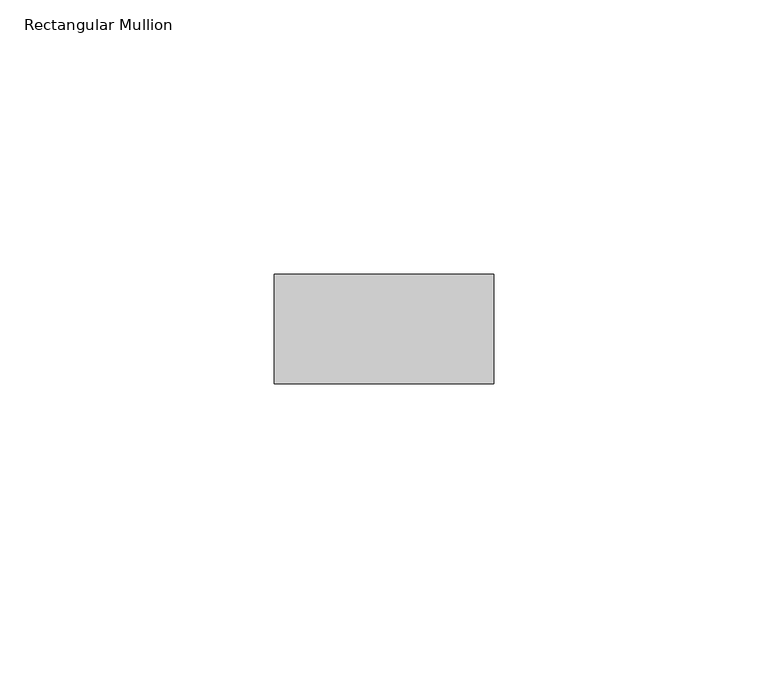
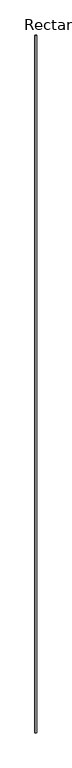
"""IFC4 building model written with IfcOpenShell, lengths in millimetres: member geometry, Rectangular Mullion : RIPA 4x2 cm."""

from ifc_helpers import new_model, si_unit, frame, origin, place, context, project, spatial, polyline, outline, extrude, source, transform, mapped, element, save


def rectangular_mullion_e5e8d682(model_context):
    return source(origin(), model_context, "Body", "SweptSolid", [
        extrude(outline(polyline([(0.0, 0.0), (0.0, -20.0), (-40.0, -20.0), (-40.0, 0.0), (0.0, 0.0)])), frame((0.0, 0.0, -19265.1659547), z_axis=(0.0, 0.0, 1.0), x_axis=(1.0, 0.0, 0.0)), (0.0, 0.0, 1.0), 19265.1659547),
    ])


if __name__ == "__main__":
    model = new_model("IFC4")
    model_context = context("Model", 3, world=origin())
    ifc_project = project(units=[si_unit("LENGTHUNIT", "METRE", prefix="MILLI")], contexts=[model_context])
    site = spatial("IfcSite", under=ifc_project)
    building = spatial("IfcBuilding", under=site)
    placement = place(None, origin())
    rectangular_mullion_shape = rectangular_mullion_e5e8d682(model_context)
    element("IfcMember", 1, ObjectType="Rectangular Mullion : RIPA 4x2 cm", at=placement, inside=building, context=model_context, shape_type="MappedRepresentation", body=[
        mapped(rectangular_mullion_shape, transform((0.0, 0.0, 0.0), x_axis=(1.0, 0.0, 0.0), y_axis=(0.0, 1.0, 0.0), z_axis=(0.0, 0.0, 1.0))),
    ])
    save(model, "model.ifc")
